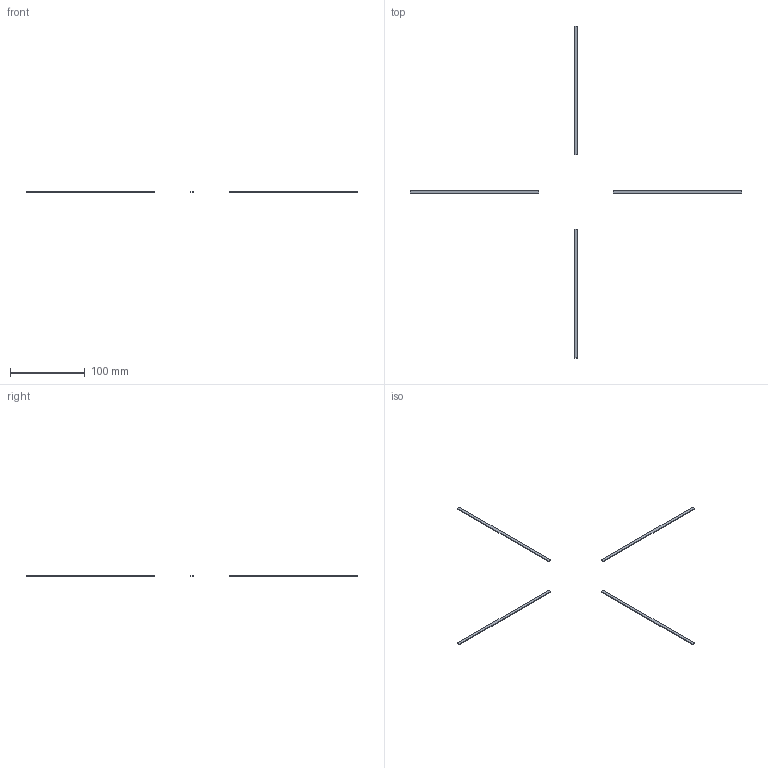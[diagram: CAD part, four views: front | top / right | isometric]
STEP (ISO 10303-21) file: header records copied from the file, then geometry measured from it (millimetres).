
FILE_DESCRIPTION(('Open CASCADE Model'),'2;1');
FILE_NAME('uhf_dep','2026-08-12T02:42:46',('Author'),('Open CASCADE'), 'Open CASCADE STEP processor 7.9','build123d','Unknown');
FILE_SCHEMA(('AUTOMOTIVE_DESIGN { 1 0 10303 214 1 1 1 1 }'));
Length unit declared in the file: millimetre
Products named in the file (5): uhf_dep; COMPOUND
Assembly tree (4 placements, depth 2):
  uhf_dep
    COMPOUND
    COMPOUND
    COMPOUND
    COMPOUND
Bounding box: 444 x 444 x 1 mm (x, y, z)
Volume: 2752 mm3; surface area: 6912 mm2
Topology: 4 solids, 4 shells, 24 faces, 48 edges, 32 vertices
Faces by surface type: plane 24
Entity records: 1312 total; most frequent: CARTESIAN_POINT 205, DIRECTION 202, LINE 144, VECTOR 144, ORIENTED_EDGE 96, PCURVE 96, DEFINITIONAL_REPRESENTATION 96, EDGE_CURVE 48
